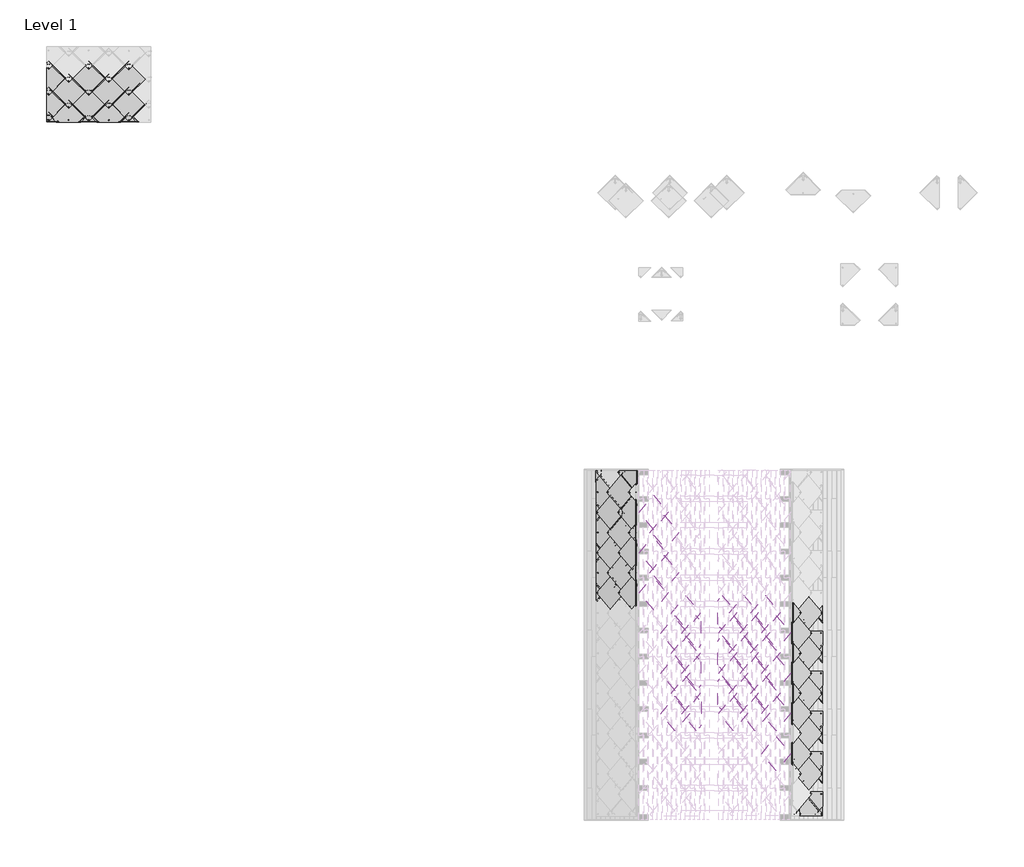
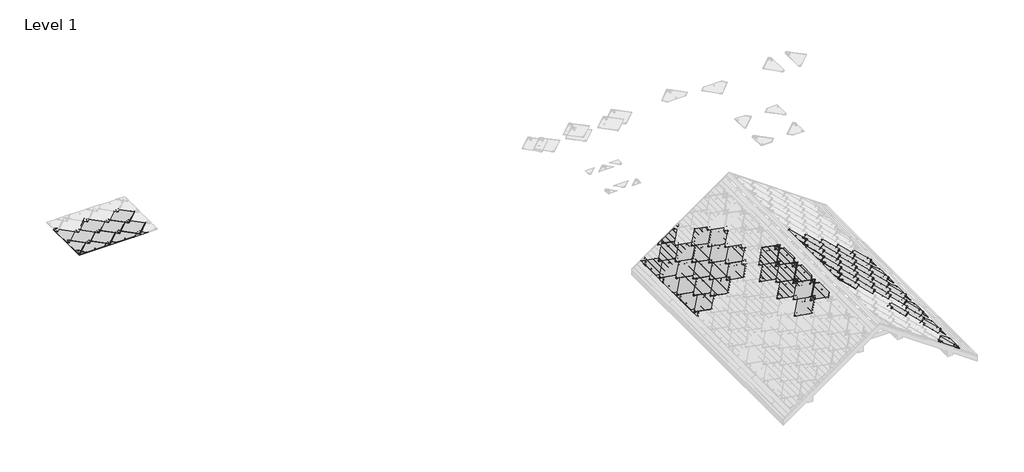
# One storey, part 5 of 6: 89 proxies.
"""IFC4 building model written with IfcOpenShell, lengths in millimetres."""

from ifc_helpers import new_model, si_unit, origin, place, context, project, spatial, transform, mapped, element, save
from components import generic_models_2e27a9fd, corner_bottom_big_right_black_b907a22d, corner_bottom_small_left_black_798ab3c3, roofing_panels_sunstyle_tile_non_pv_shingle_non_pv_shingle_be952c39, roofing_panels_sunstyle_tile_shingle_bottom_shingle_bottom_4eb983e8, roofing_panels_sunstyle_tile_shingle_bottom_small_shingle_761d3557, roofing_panels_sunstyle_tile_shingle_left_shingle_left_black_59aad734, roofing_panels_sunstyle_tile_shingle_top_shingle_top_black_4c6098d4

model = new_model("IFC4")

# Units and contexts
model_context = context("Model", 3, world=origin())
ifc_project = project(units=[si_unit("LENGTHUNIT", "METRE", prefix="MILLI")], contexts=[model_context])

# Site, building, storey
site = spatial("IfcSite", under=ifc_project)
building = spatial("IfcBuilding", under=site)
storey = spatial("IfcBuildingStorey", under=building, Name="Level 1", Elevation=0.0)

# Proxies
placement = place(None, origin())
generic_models_shape = generic_models_2e27a9fd(model_context)
element("IfcBuildingElementProxy", 1, Name="Roofing_Solar-Panels_SunStyle_Shingle-Sunstyle : Shingle Sunstyle - Black", ObjectType="Roofing_Solar-Panels_SunStyle_Shingle-Sunstyle : Shingle Sunstyle - Black", at=placement, inside=storey, context=model_context, shape_type="MappedRepresentation", body=[
    mapped(generic_models_shape, transform((-1535.0039048, 3259.0149425, 870.4489309), x_axis=(0.0, -1.0, 0.0), y_axis=(0.8191520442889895, 0.0, 0.5735764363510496), z_axis=(-0.5735764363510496, 0.0, 0.8191520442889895))),
])
element("IfcBuildingElementProxy", 2, Name="Roofing_Solar-Panels_SunStyle_Shingle-Sunstyle : Shingle Sunstyle - Black", ObjectType="Roofing_Solar-Panels_SunStyle_Shingle-Sunstyle : Shingle Sunstyle - Black", at=placement, inside=storey, context=model_context, shape_type="MappedRepresentation", body=[
    mapped(generic_models_shape, transform((-1207.5155574, 2641.6040907, 1099.7587404), x_axis=(0.0, -1.0, 0.0), y_axis=(0.8191520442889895, 0.0, 0.5735764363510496), z_axis=(-0.5735764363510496, 0.0, 0.8191520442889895))),
])
element("IfcBuildingElementProxy", 3, Name="Roofing_Solar-Panels_SunStyle_Shingle-Sunstyle : Shingle Sunstyle - Black", ObjectType="Roofing_Solar-Panels_SunStyle_Shingle-Sunstyle : Shingle Sunstyle - Black", at=placement, inside=storey, context=model_context, shape_type="MappedRepresentation", body=[
    mapped(generic_models_shape, transform((-1854.8929232, 2641.5988232, 646.4602288), x_axis=(0.0, -1.0, 0.0), y_axis=(0.8191520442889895, 0.0, 0.5735764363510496), z_axis=(-0.5735764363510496, 0.0, 0.8191520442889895))),
])
element("IfcBuildingElementProxy", 4, Name="Roofing_Solar-Panels_SunStyle_Shingle-Sunstyle : Shingle Sunstyle - Black", ObjectType="Roofing_Solar-Panels_SunStyle_Shingle-Sunstyle : Shingle Sunstyle - Black", at=placement, inside=storey, context=model_context, shape_type="MappedRepresentation", body=[
    mapped(generic_models_shape, transform((-558.6661822, 2641.1746231, 1554.0879641), x_axis=(0.0, -1.0, 0.0), y_axis=(0.8191520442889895, 0.0, 0.5735764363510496), z_axis=(-0.5735764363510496, 0.0, 0.8191520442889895))),
])
element("IfcBuildingElementProxy", 5, Name="Roofing_Solar-Panels_SunStyle_Shingle-Sunstyle : Shingle Sunstyle - Black", ObjectType="Roofing_Solar-Panels_SunStyle_Shingle-Sunstyle : Shingle Sunstyle - Black", at=placement, inside=storey, context=model_context, shape_type="MappedRepresentation", body=[
    mapped(generic_models_shape, transform((-1530.4009417, 2029.6013438, 873.6719604), x_axis=(0.0, -1.0, 0.0), y_axis=(0.8191520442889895, 0.0, 0.5735764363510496), z_axis=(-0.5735764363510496, 0.0, 0.8191520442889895))),
])
element("IfcBuildingElementProxy", 6, Name="Roofing_Solar-Panels_SunStyle_Shingle-Sunstyle : Shingle Sunstyle - Black", ObjectType="Roofing_Solar-Panels_SunStyle_Shingle-Sunstyle : Shingle Sunstyle - Black", at=placement, inside=storey, context=model_context, shape_type="MappedRepresentation", body=[
    mapped(generic_models_shape, transform((-1529.6029835, 806.6603268, 874.2306967), x_axis=(0.0, -1.0, 0.0), y_axis=(0.8191520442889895, 0.0, 0.5735764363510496), z_axis=(-0.5735764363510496, 0.0, 0.8191520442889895))),
])
element("IfcBuildingElementProxy", 7, Name="Roofing_Solar-Panels_SunStyle_Shingle-Sunstyle : Shingle Sunstyle - Black", ObjectType="Roofing_Solar-Panels_SunStyle_Shingle-Sunstyle : Shingle Sunstyle - Black", at=placement, inside=storey, context=model_context, shape_type="MappedRepresentation", body=[
    mapped(generic_models_shape, transform((-1199.2540571, 1418.4367735, 1105.5435052), x_axis=(0.0, -1.0, 0.0), y_axis=(0.8191520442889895, 0.0, 0.5735764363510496), z_axis=(-0.5735764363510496, 0.0, 0.8191520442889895))),
])
element("IfcBuildingElementProxy", 8, Name="Roofing_Solar-Panels_SunStyle_Shingle-Sunstyle : Shingle Sunstyle - Black", ObjectType="Roofing_Solar-Panels_SunStyle_Shingle-Sunstyle : Shingle Sunstyle - Black", at=placement, inside=storey, context=model_context, shape_type="MappedRepresentation", body=[
    mapped(generic_models_shape, transform((-1847.9603552, 1418.4685988, 651.3144652), x_axis=(0.0, -1.0, 0.0), y_axis=(0.8191520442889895, 0.0, 0.5735764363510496), z_axis=(-0.5735764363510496, 0.0, 0.8191520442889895))),
])
element("IfcBuildingElementProxy", 9, Name="Roofing_Solar-Panels_SunStyle_Shingle-Sunstyle : Shingle Sunstyle - Black", ObjectType="Roofing_Solar-Panels_SunStyle_Shingle-Sunstyle : Shingle Sunstyle - Black", at=placement, inside=storey, context=model_context, shape_type="MappedRepresentation", body=[
    mapped(generic_models_shape, transform((-1197.9998309, 195.6090165, 1106.4217239), x_axis=(0.0, -1.0, 0.0), y_axis=(0.8191520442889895, 0.0, 0.5735764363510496), z_axis=(-0.5735764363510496, 0.0, 0.8191520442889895))),
])
element("IfcBuildingElementProxy", 10, Name="Roofing_Solar-Panels_SunStyle_Shingle-Sunstyle : Shingle Sunstyle - Black", ObjectType="Roofing_Solar-Panels_SunStyle_Shingle-Sunstyle : Shingle Sunstyle - Black", at=placement, inside=storey, context=model_context, shape_type="MappedRepresentation", body=[
    mapped(generic_models_shape, transform((-1845.7273017, 195.560994, 652.8780661), x_axis=(0.0, -1.0, 0.0), y_axis=(0.8191520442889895, 0.0, 0.5735764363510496), z_axis=(-0.5735764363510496, 0.0, 0.8191520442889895))),
])
element("IfcBuildingElementProxy", 11, Name="Roofing_Solar-Panels_SunStyle_Shingle-Sunstyle : Shingle Sunstyle - Black", ObjectType="Roofing_Solar-Panels_SunStyle_Shingle-Sunstyle : Shingle Sunstyle - Black", at=placement, inside=storey, context=model_context, shape_type="MappedRepresentation", body=[
    mapped(generic_models_shape, transform((-550.5067889, 1418.8732971, 1559.8012328), x_axis=(0.0, -1.0, 0.0), y_axis=(0.8191520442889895, 0.0, 0.5735764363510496), z_axis=(-0.5735764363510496, 0.0, 0.8191520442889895))),
])
element("IfcBuildingElementProxy", 12, Name="Roofing_Solar-Panels_SunStyle_Shingle-Sunstyle : Shingle Sunstyle - Black", ObjectType="Roofing_Solar-Panels_SunStyle_Shingle-Sunstyle : Shingle Sunstyle - Black", at=placement, inside=storey, context=model_context, shape_type="MappedRepresentation", body=[
    mapped(generic_models_shape, transform((-236.1174212, 2029.4693943, 1779.939038), x_axis=(0.0, -1.0, 0.0), y_axis=(0.8191520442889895, 0.0, 0.5735764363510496), z_axis=(-0.5735764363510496, 0.0, 0.8191520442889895))),
])
element("IfcBuildingElementProxy", 13, Name="Roofing_Solar-Panels_SunStyle_Shingle-Sunstyle : Shingle Sunstyle - Black", ObjectType="Roofing_Solar-Panels_SunStyle_Shingle-Sunstyle : Shingle Sunstyle - Black", at=placement, inside=storey, context=model_context, shape_type="MappedRepresentation", body=[
    mapped(generic_models_shape, transform((-233.2913651, 806.0015325, 1781.9178637), x_axis=(0.0, -1.0, 0.0), y_axis=(0.8191520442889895, 0.0, 0.5735764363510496), z_axis=(-0.5735764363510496, 0.0, 0.8191520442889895))),
])
element("IfcBuildingElementProxy", 14, Name="Roofing_Solar-Panels_SunStyle_Shingle-Sunstyle : Shingle Sunstyle - Black", ObjectType="Roofing_Solar-Panels_SunStyle_Shingle-Sunstyle : Shingle Sunstyle - Black", at=placement, inside=storey, context=model_context, shape_type="MappedRepresentation", body=[
    mapped(generic_models_shape, transform((-550.4746617, 195.8970297, 1559.8237285), x_axis=(0.0, -1.0, 0.0), y_axis=(0.8191520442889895, 0.0, 0.5735764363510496), z_axis=(-0.5735764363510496, 0.0, 0.8191520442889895))),
])
element("IfcBuildingElementProxy", 15, Name="Roofing_Solar-Panels_SunStyle_Shingle-Sunstyle : Shingle Sunstyle - Black", ObjectType="Roofing_Solar-Panels_SunStyle_Shingle-Sunstyle : Shingle Sunstyle - Black", at=placement, inside=storey, context=model_context, shape_type="MappedRepresentation", body=[
    mapped(generic_models_shape, transform((97.0115308, -1029.6649676, 2013.1984414), x_axis=(0.0, -1.0, 0.0), y_axis=(0.8191520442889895, 0.0, 0.5735764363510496), z_axis=(-0.5735764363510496, 0.0, 0.8191520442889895))),
])
element("IfcBuildingElementProxy", 16, Name="Roofing_Solar-Panels_SunStyle_Shingle-Sunstyle : Shingle Sunstyle - Black", ObjectType="Roofing_Solar-Panels_SunStyle_Shingle-Sunstyle : Shingle Sunstyle - Black", at=placement, inside=storey, context=model_context, shape_type="MappedRepresentation", body=[
    mapped(generic_models_shape, transform((418.2793717, -1641.9778988, 2238.1526053), x_axis=(0.0, -1.0, 0.0), y_axis=(0.8191520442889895, 0.0, 0.5735764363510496), z_axis=(-0.5735764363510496, 0.0, 0.8191520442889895))),
])
element("IfcBuildingElementProxy", 17, Name="Roofing_Solar-Panels_SunStyle_Shingle-Sunstyle : Shingle Sunstyle - Black", ObjectType="Roofing_Solar-Panels_SunStyle_Shingle-Sunstyle : Shingle Sunstyle - Black", at=placement, inside=storey, context=model_context, shape_type="MappedRepresentation", body=[
    mapped(generic_models_shape, transform((97.0115308, -2251.4167665, 2013.1984414), x_axis=(0.0, -1.0, 0.0), y_axis=(0.8191520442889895, 0.0, 0.5735764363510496), z_axis=(-0.5735764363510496, 0.0, 0.8191520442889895))),
])
element("IfcBuildingElementProxy", 18, Name="Roofing_Solar-Panels_SunStyle_Shingle-Sunstyle : Shingle Sunstyle - Black", ObjectType="Roofing_Solar-Panels_SunStyle_Shingle-Sunstyle : Shingle Sunstyle - Black", at=placement, inside=storey, context=model_context, shape_type="MappedRepresentation", body=[
    mapped(generic_models_shape, transform((97.0115308, -3477.1550312, 2013.1984414), x_axis=(0.0, -1.0, 0.0), y_axis=(0.8191520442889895, 0.0, 0.5735764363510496), z_axis=(-0.5735764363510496, 0.0, 0.8191520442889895))),
])
element("IfcBuildingElementProxy", 19, Name="Roofing_Solar-Panels_SunStyle_Shingle-Sunstyle : Shingle Sunstyle - Black", ObjectType="Roofing_Solar-Panels_SunStyle_Shingle-Sunstyle : Shingle Sunstyle - Black", at=placement, inside=storey, context=model_context, shape_type="MappedRepresentation", body=[
    mapped(generic_models_shape, transform((417.0270674, -418.4426617, 2237.2757324), x_axis=(0.0, -1.0, 0.0), y_axis=(0.8191520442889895, 0.0, 0.5735764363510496), z_axis=(-0.5735764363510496, 0.0, 0.8191520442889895))),
])
element("IfcBuildingElementProxy", 20, Name="Roofing_Solar-Panels_SunStyle_Shingle-Sunstyle : Shingle Sunstyle - Black", ObjectType="Roofing_Solar-Panels_SunStyle_Shingle-Sunstyle : Shingle Sunstyle - Black", at=placement, inside=storey, context=model_context, shape_type="MappedRepresentation", body=[
    mapped(generic_models_shape, transform((419.2846687, -2865.9327253, 2238.8565219), x_axis=(0.0, -1.0, 0.0), y_axis=(0.8191520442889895, 0.0, 0.5735764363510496), z_axis=(-0.5735764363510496, 0.0, 0.8191520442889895))),
])
element("IfcBuildingElementProxy", 21, Name="Roofing_Solar-Panels_SunStyle_Shingle-Sunstyle : Shingle Sunstyle - Black", ObjectType="Roofing_Solar-Panels_SunStyle_Shingle-Sunstyle : Shingle Sunstyle - Black", at=placement, inside=storey, context=model_context, shape_type="MappedRepresentation", body=[
    mapped(generic_models_shape, transform((-883.5258315, 2029.6103825, 1326.6187888), x_axis=(0.0, -1.0, 0.0), y_axis=(0.8191520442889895, 0.0, 0.5735764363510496), z_axis=(-0.5735764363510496, 0.0, 0.8191520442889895))),
])
element("IfcBuildingElementProxy", 22, Name="Roofing_Solar-Panels_SunStyle_Shingle-Sunstyle : Shingle Sunstyle - Black", ObjectType="Roofing_Solar-Panels_SunStyle_Shingle-Sunstyle : Shingle Sunstyle - Black", at=placement, inside=storey, context=model_context, shape_type="MappedRepresentation", body=[
    mapped(generic_models_shape, transform((-880.6655471, 806.6606159, 1328.6215815), x_axis=(0.0, -1.0, 0.0), y_axis=(0.8191520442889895, 0.0, 0.5735764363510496), z_axis=(-0.5735764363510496, 0.0, 0.8191520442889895))),
])
element("IfcBuildingElementProxy", 23, Name="Roofing_Solar-Panels_SunStyle_Shingle-Sunstyle : Shingle Sunstyle - Black", ObjectType="Roofing_Solar-Panels_SunStyle_Shingle-Sunstyle : Shingle Sunstyle - Black", at=placement, inside=storey, context=model_context, shape_type="MappedRepresentation", body=[
    mapped(generic_models_shape, transform((3456.4537913, -412.3049924, 1295.5334931), x_axis=(0.0, 1.0, 0.0), y_axis=(-0.8191520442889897, 0.0, 0.5735764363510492), z_axis=(0.5735764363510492, 0.0, 0.8191520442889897))),
])
element("IfcBuildingElementProxy", 24, Name="Roofing_Solar-Panels_SunStyle_Shingle-Sunstyle : Shingle Sunstyle - Black", ObjectType="Roofing_Solar-Panels_SunStyle_Shingle-Sunstyle : Shingle Sunstyle - Black", at=placement, inside=storey, context=model_context, shape_type="MappedRepresentation", body=[
    mapped(generic_models_shape, transform((4100.2290331, -414.2397947, 844.7572159), x_axis=(0.0, 1.0, 0.0), y_axis=(-0.8191520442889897, 0.0, 0.5735764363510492), z_axis=(0.5735764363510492, 0.0, 0.8191520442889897))),
])
element("IfcBuildingElementProxy", 25, Name="Roofing_Solar-Panels_SunStyle_Shingle-Sunstyle : Shingle Sunstyle - Black", ObjectType="Roofing_Solar-Panels_SunStyle_Shingle-Sunstyle : Shingle Sunstyle - Black", at=placement, inside=storey, context=model_context, shape_type="MappedRepresentation", body=[
    mapped(generic_models_shape, transform((2812.5194528, -409.108624, 1746.421171), x_axis=(0.0, 1.0, 0.0), y_axis=(-0.8191520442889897, 0.0, 0.5735764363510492), z_axis=(0.5735764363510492, 0.0, 0.8191520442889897))),
])
element("IfcBuildingElementProxy", 26, Name="Roofing_Solar-Panels_SunStyle_Shingle-Sunstyle : Shingle Sunstyle - Black", ObjectType="Roofing_Solar-Panels_SunStyle_Shingle-Sunstyle : Shingle Sunstyle - Black", at=placement, inside=storey, context=model_context, shape_type="MappedRepresentation", body=[
    mapped(generic_models_shape, transform((2152.6525765, -410.5955467, 2208.464932), x_axis=(0.0, 1.0, 0.0), y_axis=(-0.8191520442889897, 0.0, 0.5735764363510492), z_axis=(0.5735764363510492, 0.0, 0.8191520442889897))),
])
element("IfcBuildingElementProxy", 27, Name="Roofing_Solar-Panels_SunStyle_Shingle-Sunstyle : Shingle Sunstyle - Black", ObjectType="Roofing_Solar-Panels_SunStyle_Shingle-Sunstyle : Shingle Sunstyle - Black", at=placement, inside=storey, context=model_context, shape_type="MappedRepresentation", body=[
    mapped(generic_models_shape, transform((3778.0193653, -1026.170702, 1070.3708542), x_axis=(0.0, 1.0, 0.0), y_axis=(-0.8191520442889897, 0.0, 0.5735764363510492), z_axis=(0.5735764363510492, 0.0, 0.8191520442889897))),
])
element("IfcBuildingElementProxy", 28, Name="Roofing_Solar-Panels_SunStyle_Shingle-Sunstyle : Shingle Sunstyle - Black", ObjectType="Roofing_Solar-Panels_SunStyle_Shingle-Sunstyle : Shingle Sunstyle - Black", at=placement, inside=storey, context=model_context, shape_type="MappedRepresentation", body=[
    mapped(generic_models_shape, transform((3134.2669178, -1024.282176, 1521.1311707), x_axis=(0.0, 1.0, 0.0), y_axis=(-0.8191520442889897, 0.0, 0.5735764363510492), z_axis=(0.5735764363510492, 0.0, 0.8191520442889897))),
])
element("IfcBuildingElementProxy", 29, Name="Roofing_Solar-Panels_SunStyle_Shingle-Sunstyle : Shingle Sunstyle - Black", ObjectType="Roofing_Solar-Panels_SunStyle_Shingle-Sunstyle : Shingle Sunstyle - Black", at=placement, inside=storey, context=model_context, shape_type="MappedRepresentation", body=[
    mapped(generic_models_shape, transform((2490.4193004, -1021.3295974, 1971.9581258), x_axis=(0.0, 1.0, 0.0), y_axis=(-0.8191520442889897, 0.0, 0.5735764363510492), z_axis=(0.5735764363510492, 0.0, 0.8191520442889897))),
])
element("IfcBuildingElementProxy", 30, Name="Roofing_Solar-Panels_SunStyle_Shingle-Sunstyle : Shingle Sunstyle - Black", ObjectType="Roofing_Solar-Panels_SunStyle_Shingle-Sunstyle : Shingle Sunstyle - Black", at=placement, inside=storey, context=model_context, shape_type="MappedRepresentation", body=[
    mapped(generic_models_shape, transform((1831.7362128, -1020.7907284, 2433.1729891), x_axis=(0.0, 1.0, 0.0), y_axis=(-0.8191520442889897, 0.0, 0.5735764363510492), z_axis=(0.5735764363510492, 0.0, 0.8191520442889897))),
])
element("IfcBuildingElementProxy", 31, Name="Roofing_Solar-Panels_SunStyle_Shingle-Sunstyle : Shingle Sunstyle - Black", ObjectType="Roofing_Solar-Panels_SunStyle_Shingle-Sunstyle : Shingle Sunstyle - Black", at=placement, inside=storey, context=model_context, shape_type="MappedRepresentation", body=[
    mapped(generic_models_shape, transform((3456.4537913, -1636.053072, 1295.5334931), x_axis=(0.0, 1.0, 0.0), y_axis=(-0.8191520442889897, 0.0, 0.5735764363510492), z_axis=(0.5735764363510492, 0.0, 0.8191520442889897))),
])
element("IfcBuildingElementProxy", 32, Name="Roofing_Solar-Panels_SunStyle_Shingle-Sunstyle : Shingle Sunstyle - Black", ObjectType="Roofing_Solar-Panels_SunStyle_Shingle-Sunstyle : Shingle Sunstyle - Black", at=placement, inside=storey, context=model_context, shape_type="MappedRepresentation", body=[
    mapped(generic_models_shape, transform((4100.2290331, -1637.9878743, 844.7572159), x_axis=(0.0, 1.0, 0.0), y_axis=(-0.8191520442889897, 0.0, 0.5735764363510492), z_axis=(0.5735764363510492, 0.0, 0.8191520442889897))),
])
element("IfcBuildingElementProxy", 33, Name="Roofing_Solar-Panels_SunStyle_Shingle-Sunstyle : Shingle Sunstyle - Black", ObjectType="Roofing_Solar-Panels_SunStyle_Shingle-Sunstyle : Shingle Sunstyle - Black", at=placement, inside=storey, context=model_context, shape_type="MappedRepresentation", body=[
    mapped(generic_models_shape, transform((2812.5194528, -1632.8567036, 1746.421171), x_axis=(0.0, 1.0, 0.0), y_axis=(-0.8191520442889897, 0.0, 0.5735764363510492), z_axis=(0.5735764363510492, 0.0, 0.8191520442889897))),
])
element("IfcBuildingElementProxy", 34, Name="Roofing_Solar-Panels_SunStyle_Shingle-Sunstyle : Shingle Sunstyle - Black", ObjectType="Roofing_Solar-Panels_SunStyle_Shingle-Sunstyle : Shingle Sunstyle - Black", at=placement, inside=storey, context=model_context, shape_type="MappedRepresentation", body=[
    mapped(generic_models_shape, transform((2152.6525765, -1634.3436263, 2208.464932), x_axis=(0.0, 1.0, 0.0), y_axis=(-0.8191520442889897, 0.0, 0.5735764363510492), z_axis=(0.5735764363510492, 0.0, 0.8191520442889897))),
])
element("IfcBuildingElementProxy", 35, Name="Roofing_Solar-Panels_SunStyle_Shingle-Sunstyle : Shingle Sunstyle - Black", ObjectType="Roofing_Solar-Panels_SunStyle_Shingle-Sunstyle : Shingle Sunstyle - Black", at=placement, inside=storey, context=model_context, shape_type="MappedRepresentation", body=[
    mapped(generic_models_shape, transform((3778.0193653, -2249.8248307, 1070.3708542), x_axis=(0.0, 1.0, 0.0), y_axis=(-0.8191520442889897, 0.0, 0.5735764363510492), z_axis=(0.5735764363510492, 0.0, 0.8191520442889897))),
])
element("IfcBuildingElementProxy", 36, Name="Roofing_Solar-Panels_SunStyle_Shingle-Sunstyle : Shingle Sunstyle - Black", ObjectType="Roofing_Solar-Panels_SunStyle_Shingle-Sunstyle : Shingle Sunstyle - Black", at=placement, inside=storey, context=model_context, shape_type="MappedRepresentation", body=[
    mapped(generic_models_shape, transform((3134.2669178, -2247.9363047, 1521.1311707), x_axis=(0.0, 1.0, 0.0), y_axis=(-0.8191520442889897, 0.0, 0.5735764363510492), z_axis=(0.5735764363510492, 0.0, 0.8191520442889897))),
])
element("IfcBuildingElementProxy", 37, Name="Roofing_Solar-Panels_SunStyle_Shingle-Sunstyle : Shingle Sunstyle - Black", ObjectType="Roofing_Solar-Panels_SunStyle_Shingle-Sunstyle : Shingle Sunstyle - Black", at=placement, inside=storey, context=model_context, shape_type="MappedRepresentation", body=[
    mapped(generic_models_shape, transform((2490.4193004, -2244.9837261, 1971.9581258), x_axis=(0.0, 1.0, 0.0), y_axis=(-0.8191520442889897, 0.0, 0.5735764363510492), z_axis=(0.5735764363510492, 0.0, 0.8191520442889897))),
])
element("IfcBuildingElementProxy", 38, Name="Roofing_Solar-Panels_SunStyle_Shingle-Sunstyle : Shingle Sunstyle - Black", ObjectType="Roofing_Solar-Panels_SunStyle_Shingle-Sunstyle : Shingle Sunstyle - Black", at=placement, inside=storey, context=model_context, shape_type="MappedRepresentation", body=[
    mapped(generic_models_shape, transform((1831.7362128, -2244.4448571, 2433.1729891), x_axis=(0.0, 1.0, 0.0), y_axis=(-0.8191520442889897, 0.0, 0.5735764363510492), z_axis=(0.5735764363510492, 0.0, 0.8191520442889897))),
])
element("IfcBuildingElementProxy", 39, Name="Roofing_Solar-Panels_SunStyle_Shingle-Sunstyle : Shingle Sunstyle - Black", ObjectType="Roofing_Solar-Panels_SunStyle_Shingle-Sunstyle : Shingle Sunstyle - Black", at=placement, inside=storey, context=model_context, shape_type="MappedRepresentation", body=[
    mapped(generic_models_shape, transform((3456.4537913, -2859.7072007, 1295.5334931), x_axis=(0.0, 1.0, 0.0), y_axis=(-0.8191520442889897, 0.0, 0.5735764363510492), z_axis=(0.5735764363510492, 0.0, 0.8191520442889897))),
])
element("IfcBuildingElementProxy", 40, Name="Roofing_Solar-Panels_SunStyle_Shingle-Sunstyle : Shingle Sunstyle - Black", ObjectType="Roofing_Solar-Panels_SunStyle_Shingle-Sunstyle : Shingle Sunstyle - Black", at=placement, inside=storey, context=model_context, shape_type="MappedRepresentation", body=[
    mapped(generic_models_shape, transform((4100.2290331, -2861.6420029, 844.7572159), x_axis=(0.0, 1.0, 0.0), y_axis=(-0.8191520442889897, 0.0, 0.5735764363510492), z_axis=(0.5735764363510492, 0.0, 0.8191520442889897))),
])
element("IfcBuildingElementProxy", 41, Name="Roofing_Solar-Panels_SunStyle_Shingle-Sunstyle : Shingle Sunstyle - Black", ObjectType="Roofing_Solar-Panels_SunStyle_Shingle-Sunstyle : Shingle Sunstyle - Black", at=placement, inside=storey, context=model_context, shape_type="MappedRepresentation", body=[
    mapped(generic_models_shape, transform((2812.5194528, -2856.5108323, 1746.421171), x_axis=(0.0, 1.0, 0.0), y_axis=(-0.8191520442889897, 0.0, 0.5735764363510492), z_axis=(0.5735764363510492, 0.0, 0.8191520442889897))),
])
element("IfcBuildingElementProxy", 42, Name="Roofing_Solar-Panels_SunStyle_Shingle-Sunstyle : Shingle Sunstyle - Black", ObjectType="Roofing_Solar-Panels_SunStyle_Shingle-Sunstyle : Shingle Sunstyle - Black", at=placement, inside=storey, context=model_context, shape_type="MappedRepresentation", body=[
    mapped(generic_models_shape, transform((2152.6525765, -2857.997755, 2208.464932), x_axis=(0.0, 1.0, 0.0), y_axis=(-0.8191520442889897, 0.0, 0.5735764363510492), z_axis=(0.5735764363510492, 0.0, 0.8191520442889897))),
])
element("IfcBuildingElementProxy", 43, Name="Roofing_Solar-Panels_SunStyle_Shingle-Sunstyle : Shingle Sunstyle - Black", ObjectType="Roofing_Solar-Panels_SunStyle_Shingle-Sunstyle : Shingle Sunstyle - Black", at=placement, inside=storey, context=model_context, shape_type="MappedRepresentation", body=[
    mapped(generic_models_shape, transform((3778.0193653, -3473.4706528, 1070.3708542), x_axis=(0.0, 1.0, 0.0), y_axis=(-0.8191520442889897, 0.0, 0.5735764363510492), z_axis=(0.5735764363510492, 0.0, 0.8191520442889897))),
])
element("IfcBuildingElementProxy", 44, Name="Roofing_Solar-Panels_SunStyle_Shingle-Sunstyle : Shingle Sunstyle - Black", ObjectType="Roofing_Solar-Panels_SunStyle_Shingle-Sunstyle : Shingle Sunstyle - Black", at=placement, inside=storey, context=model_context, shape_type="MappedRepresentation", body=[
    mapped(generic_models_shape, transform((3134.2669178, -3471.5821268, 1521.1311707), x_axis=(0.0, 1.0, 0.0), y_axis=(-0.8191520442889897, 0.0, 0.5735764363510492), z_axis=(0.5735764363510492, 0.0, 0.8191520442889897))),
])
element("IfcBuildingElementProxy", 45, Name="Roofing_Solar-Panels_SunStyle_Shingle-Sunstyle : Shingle Sunstyle - Black", ObjectType="Roofing_Solar-Panels_SunStyle_Shingle-Sunstyle : Shingle Sunstyle - Black", at=placement, inside=storey, context=model_context, shape_type="MappedRepresentation", body=[
    mapped(generic_models_shape, transform((2490.4193004, -3468.6295482, 1971.9581258), x_axis=(0.0, 1.0, 0.0), y_axis=(-0.8191520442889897, 0.0, 0.5735764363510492), z_axis=(0.5735764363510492, 0.0, 0.8191520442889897))),
])
element("IfcBuildingElementProxy", 46, Name="Roofing_Solar-Panels_SunStyle_Shingle-Sunstyle : Shingle Sunstyle - Black", ObjectType="Roofing_Solar-Panels_SunStyle_Shingle-Sunstyle : Shingle Sunstyle - Black", at=placement, inside=storey, context=model_context, shape_type="MappedRepresentation", body=[
    mapped(generic_models_shape, transform((1831.7362128, -3468.0906792, 2433.1729891), x_axis=(0.0, 1.0, 0.0), y_axis=(-0.8191520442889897, 0.0, 0.5735764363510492), z_axis=(0.5735764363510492, 0.0, 0.8191520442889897))),
])
element("IfcBuildingElementProxy", 47, Name="Roofing_Solar-Panels_SunStyle_Shingle-Sunstyle : Shingle Sunstyle - Black", ObjectType="Roofing_Solar-Panels_SunStyle_Shingle-Sunstyle : Shingle Sunstyle - Black", at=placement, inside=storey, context=model_context, shape_type="MappedRepresentation", body=[
    mapped(generic_models_shape, transform((4100.2290331, -4085.287825, 844.7572159), x_axis=(0.0, 1.0, 0.0), y_axis=(-0.8191520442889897, 0.0, 0.5735764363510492), z_axis=(0.5735764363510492, 0.0, 0.8191520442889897))),
])
element("IfcBuildingElementProxy", 48, Name="Roofing_Solar-Panels_SunStyle_Shingle-Sunstyle : Shingle Sunstyle - Black", ObjectType="Roofing_Solar-Panels_SunStyle_Shingle-Sunstyle : Shingle Sunstyle - Black", at=placement, inside=storey, context=model_context, shape_type="MappedRepresentation", body=[
    mapped(generic_models_shape, transform((3778.0193653, -4697.1340052, 1070.3708542), x_axis=(0.0, 1.0, 0.0), y_axis=(-0.8191520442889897, 0.0, 0.5735764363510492), z_axis=(0.5735764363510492, 0.0, 0.8191520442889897))),
])
element("IfcBuildingElementProxy", 49, Name="Roofing_Solar-Panels_SunStyle_Shingle-Sunstyle : Shingle Sunstyle - Black", ObjectType="Roofing_Solar-Panels_SunStyle_Shingle-Sunstyle : Shingle Sunstyle - Black", at=placement, inside=storey, context=model_context, shape_type="MappedRepresentation", body=[
    mapped(generic_models_shape, transform((3134.2669178, -4695.2454793, 1521.1311707), x_axis=(0.0, 1.0, 0.0), y_axis=(-0.8191520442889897, 0.0, 0.5735764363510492), z_axis=(0.5735764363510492, 0.0, 0.8191520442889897))),
])
element("IfcBuildingElementProxy", 50, Name="Roofing_Solar-Panels_SunStyle_Shingle-Sunstyle : Shingle Sunstyle - Black", ObjectType="Roofing_Solar-Panels_SunStyle_Shingle-Sunstyle : Shingle Sunstyle - Black", at=placement, inside=storey, context=model_context, shape_type="MappedRepresentation", body=[
    mapped(generic_models_shape, transform((4100.2290331, -5308.9511775, 844.7572159), x_axis=(0.0, 1.0, 0.0), y_axis=(-0.8191520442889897, 0.0, 0.5735764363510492), z_axis=(0.5735764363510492, 0.0, 0.8191520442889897))),
])
corner_bottom_big_right_black_shape = corner_bottom_big_right_black_b907a22d(model_context)
element("IfcBuildingElementProxy", 51, Name="Roofing_Panels_SunStyle_Tile_Corner-Bottom-Big-Right : Corner Bottom Big Right - Black", ObjectType="Roofing_Panels_SunStyle_Tile_Corner-Bottom-Big-Right : Corner Bottom Big Right - Black", at=placement, inside=storey, context=model_context, shape_type="MappedRepresentation", body=[
    mapped(corner_bottom_big_right_black_shape, transform((4504.5969735, -5920.6834278, 561.6157358), x_axis=(0.0, 1.0, 0.0), y_axis=(-0.8191520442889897, 0.0, 0.5735764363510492), z_axis=(0.5735764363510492, 0.0, 0.8191520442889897))),
])
element("IfcBuildingElementProxy", 52, Name="Roofing_Panels_SunStyle_Tile_Corner-Bottom-Big-Right : Corner Bottom Big Right - Black", ObjectType="Roofing_Panels_SunStyle_Tile_Corner-Bottom-Big-Right : Corner Bottom Big Right - Black", at=placement, inside=storey, context=model_context, shape_type="MappedRepresentation", body=[
    mapped(corner_bottom_big_right_black_shape, transform((4500.2731694, -1026.2343468, 564.643296), x_axis=(0.0, 1.0, 0.0), y_axis=(-0.8191520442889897, 0.0, 0.5735764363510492), z_axis=(0.5735764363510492, 0.0, 0.8191520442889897))),
])
element("IfcBuildingElementProxy", 53, Name="Roofing_Panels_SunStyle_Tile_Corner-Bottom-Big-Right : Corner Bottom Big Right - Black", ObjectType="Roofing_Panels_SunStyle_Tile_Corner-Bottom-Big-Right : Corner Bottom Big Right - Black", at=placement, inside=storey, context=model_context, shape_type="MappedRepresentation", body=[
    mapped(corner_bottom_big_right_black_shape, transform((4500.2731694, -2249.8884755, 564.643296), x_axis=(0.0, 1.0, 0.0), y_axis=(-0.8191520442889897, 0.0, 0.5735764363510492), z_axis=(0.5735764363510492, 0.0, 0.8191520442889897))),
])
element("IfcBuildingElementProxy", 54, Name="Roofing_Panels_SunStyle_Tile_Corner-Bottom-Big-Right : Corner Bottom Big Right - Black", ObjectType="Roofing_Panels_SunStyle_Tile_Corner-Bottom-Big-Right : Corner Bottom Big Right - Black", at=placement, inside=storey, context=model_context, shape_type="MappedRepresentation", body=[
    mapped(corner_bottom_big_right_black_shape, transform((4500.2731694, -3473.5342976, 564.643296), x_axis=(0.0, 1.0, 0.0), y_axis=(-0.8191520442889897, 0.0, 0.5735764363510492), z_axis=(0.5735764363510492, 0.0, 0.8191520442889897))),
])
element("IfcBuildingElementProxy", 55, Name="Roofing_Panels_SunStyle_Tile_Corner-Bottom-Big-Right : Corner Bottom Big Right - Black", ObjectType="Roofing_Panels_SunStyle_Tile_Corner-Bottom-Big-Right : Corner Bottom Big Right - Black", at=placement, inside=storey, context=model_context, shape_type="MappedRepresentation", body=[
    mapped(corner_bottom_big_right_black_shape, transform((4500.2731694, -4697.1976501, 564.643296), x_axis=(0.0, 1.0, 0.0), y_axis=(-0.8191520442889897, 0.0, 0.5735764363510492), z_axis=(0.5735764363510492, 0.0, 0.8191520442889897))),
])
corner_bottom_small_left_black_shape = corner_bottom_small_left_black_798ab3c3(model_context)
element("IfcBuildingElementProxy", 56, Name="Roofing_Panels_SunStyle_Tile_Corner-Bottom-Small-Left : Corner Bottom Small Left - Black", ObjectType="Roofing_Panels_SunStyle_Tile_Corner-Bottom-Small-Left : Corner Bottom Small Left - Black", at=placement, inside=storey, context=model_context, shape_type="MappedRepresentation", body=[
    mapped(corner_bottom_small_left_black_shape, transform((-2578.7189278, 3870.3505898, 139.631804), x_axis=(0.0, -1.0, 0.0), y_axis=(0.8191520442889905, 0.0, 0.5735764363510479), z_axis=(-0.5735764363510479, 0.0, 0.8191520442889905))),
])
element("IfcBuildingElementProxy", 57, Name="Roofing_Panels_SunStyle_Tile_Corner-Bottom-Small-Left : Corner Bottom Small Left - Black", ObjectType="Roofing_Panels_SunStyle_Tile_Corner-Bottom-Small-Left : Corner Bottom Small Left - Black", at=placement, inside=storey, context=model_context, shape_type="MappedRepresentation", body=[
    mapped(corner_bottom_small_left_black_shape, transform((4825.9079764, -6532.0823709, 336.6313495), x_axis=(0.0, 1.0, 0.0), y_axis=(-0.8191520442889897, 0.0, 0.5735764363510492), z_axis=(0.5735764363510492, 0.0, 0.8191520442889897))),
])
element("IfcBuildingElementProxy", 58, Name="Roofing_Panels_SunStyle_Tile_Corner-Bottom-Small-Left : Corner Bottom Small Left - Black", ObjectType="Roofing_Panels_SunStyle_Tile_Corner-Bottom-Small-Left : Corner Bottom Small Left - Black", at=placement, inside=storey, context=model_context, shape_type="MappedRepresentation", body=[
    mapped(corner_bottom_small_left_black_shape, transform((-18987.0193526, 14216.490861, 0.0), x_axis=(1.0, 0.0, 0.0), y_axis=(0.0, 1.0, 0.0), z_axis=(0.0, 0.0, 1.0))),
])
roofing_panels_sunstyle_tile_non_pv_shingle_non_pv_shingle_shape = roofing_panels_sunstyle_tile_non_pv_shingle_non_pv_shingle_be952c39(model_context)
element("IfcBuildingElementProxy", 59, Name="Roofing_Panels_SunStyle_Tile_Non-PV-Shingle : Non PV Shingle - Black", ObjectType="Roofing_Panels_SunStyle_Tile_Non-PV-Shingle : Non PV Shingle - Black", at=placement, inside=storey, context=model_context, shape_type="MappedRepresentation", body=[
    mapped(roofing_panels_sunstyle_tile_non_pv_shingle_non_pv_shingle_shape, transform((-16541.4625549, 15859.3976163, 0.0), x_axis=(1.0, 0.0, 0.0), y_axis=(0.0, 1.0, 0.0), z_axis=(0.0, 0.0, 1.0))),
])
element("IfcBuildingElementProxy", 60, Name="Roofing_Panels_SunStyle_Tile_Non-PV-Shingle : Non PV Shingle - Black", ObjectType="Roofing_Panels_SunStyle_Tile_Non-PV-Shingle : Non PV Shingle - Black", at=placement, inside=storey, context=model_context, shape_type="MappedRepresentation", body=[
    mapped(roofing_panels_sunstyle_tile_non_pv_shingle_non_pv_shingle_shape, transform((-17764.4246151, 15861.2891061, 0.0), x_axis=(1.0, 0.0, 0.0), y_axis=(0.0, 1.0, 0.0), z_axis=(0.0, 0.0, 1.0))),
])
element("IfcBuildingElementProxy", 61, Name="Roofing_Panels_SunStyle_Tile_Non-PV-Shingle : Non PV Shingle - Black", ObjectType="Roofing_Panels_SunStyle_Tile_Non-PV-Shingle : Non PV Shingle - Black", at=placement, inside=storey, context=model_context, shape_type="MappedRepresentation", body=[
    mapped(roofing_panels_sunstyle_tile_non_pv_shingle_non_pv_shingle_shape, transform((-18375.6614882, 15465.802766, 0.0), x_axis=(1.0, 0.0, 0.0), y_axis=(0.0, 1.0, 0.0), z_axis=(0.0, 0.0, 1.0))),
])
element("IfcBuildingElementProxy", 62, Name="Roofing_Panels_SunStyle_Tile_Non-PV-Shingle : Non PV Shingle - Black", ObjectType="Roofing_Panels_SunStyle_Tile_Non-PV-Shingle : Non PV Shingle - Black", at=placement, inside=storey, context=model_context, shape_type="MappedRepresentation", body=[
    mapped(roofing_panels_sunstyle_tile_non_pv_shingle_non_pv_shingle_shape, transform((-17764.4246151, 15073.1445066, 0.0), x_axis=(1.0, 0.0, 0.0), y_axis=(0.0, 1.0, 0.0), z_axis=(0.0, 0.0, 1.0))),
])
element("IfcBuildingElementProxy", 63, Name="Roofing_Panels_SunStyle_Tile_Non-PV-Shingle : Non PV Shingle - Black", ObjectType="Roofing_Panels_SunStyle_Tile_Non-PV-Shingle : Non PV Shingle - Black", at=placement, inside=storey, context=model_context, shape_type="MappedRepresentation", body=[
    mapped(roofing_panels_sunstyle_tile_non_pv_shingle_non_pv_shingle_shape, transform((-17152.8625549, 15466.1580316, 0.0), x_axis=(1.0, 0.0, 0.0), y_axis=(0.0, 1.0, 0.0), z_axis=(0.0, 0.0, 1.0))),
])
element("IfcBuildingElementProxy", 64, Name="Roofing_Panels_SunStyle_Tile_Non-PV-Shingle : Non PV Shingle - Black", ObjectType="Roofing_Panels_SunStyle_Tile_Non-PV-Shingle : Non PV Shingle - Black", at=placement, inside=storey, context=model_context, shape_type="MappedRepresentation", body=[
    mapped(roofing_panels_sunstyle_tile_non_pv_shingle_non_pv_shingle_shape, transform((-16541.4625549, 15071.2530167, 0.0), x_axis=(1.0, 0.0, 0.0), y_axis=(0.0, 1.0, 0.0), z_axis=(0.0, 0.0, 1.0))),
])
roofing_panels_sunstyle_tile_shingle_bottom_shingle_bottom_shape = roofing_panels_sunstyle_tile_shingle_bottom_shingle_bottom_4eb983e8(model_context)
element("IfcBuildingElementProxy", 65, Name="Roofing_Panels_SunStyle_Tile_Shingle-Bottom : Shingle Bottom - Black", ObjectType="Roofing_Panels_SunStyle_Tile_Shingle-Bottom : Shingle Bottom - Black", at=placement, inside=storey, context=model_context, shape_type="MappedRepresentation", body=[
    mapped(roofing_panels_sunstyle_tile_shingle_bottom_shingle_bottom_shape, transform((-2260.311488, 3258.9577848, 362.5830936), x_axis=(0.0, -1.0, 0.0), y_axis=(0.8191520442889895, 0.0, 0.5735764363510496), z_axis=(-0.5735764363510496, 0.0, 0.8191520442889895))),
])
element("IfcBuildingElementProxy", 66, Name="Roofing_Panels_SunStyle_Tile_Shingle-Bottom : Shingle Bottom - Black", ObjectType="Roofing_Panels_SunStyle_Tile_Shingle-Bottom : Shingle Bottom - Black", at=placement, inside=storey, context=model_context, shape_type="MappedRepresentation", body=[
    mapped(roofing_panels_sunstyle_tile_shingle_bottom_shingle_bottom_shape, transform((-18375.6614882, 14589.6224983, 0.0), x_axis=(1.0, 0.0, 0.0), y_axis=(0.0, 1.0, 0.0), z_axis=(0.0, 0.0, 1.0))),
])
element("IfcBuildingElementProxy", 67, Name="Roofing_Panels_SunStyle_Tile_Shingle-Bottom : Shingle Bottom - Black", ObjectType="Roofing_Panels_SunStyle_Tile_Shingle-Bottom : Shingle Bottom - Black", at=placement, inside=storey, context=model_context, shape_type="MappedRepresentation", body=[
    mapped(roofing_panels_sunstyle_tile_shingle_bottom_shingle_bottom_shape, transform((-17152.8622323, 14586.6703303, 0.0), x_axis=(1.0, 0.0, 0.0), y_axis=(0.0, 1.0, 0.0), z_axis=(0.0, 0.0, 1.0))),
])
element("IfcBuildingElementProxy", 68, Name="Roofing_Panels_SunStyle_Tile_Shingle-Bottom : Shingle Bottom - Black", ObjectType="Roofing_Panels_SunStyle_Tile_Shingle-Bottom : Shingle Bottom - Black", at=placement, inside=storey, context=model_context, shape_type="MappedRepresentation", body=[
    mapped(roofing_panels_sunstyle_tile_shingle_bottom_shingle_bottom_shape, transform((-2254.957801, 2029.893062, 366.3317856), x_axis=(0.0, -1.0, 0.0), y_axis=(0.8191520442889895, 0.0, 0.5735764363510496), z_axis=(-0.5735764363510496, 0.0, 0.8191520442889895))),
])
element("IfcBuildingElementProxy", 69, Name="Roofing_Panels_SunStyle_Tile_Shingle-Bottom : Shingle Bottom - Black", ObjectType="Roofing_Panels_SunStyle_Tile_Shingle-Bottom : Shingle Bottom - Black", at=placement, inside=storey, context=model_context, shape_type="MappedRepresentation", body=[
    mapped(roofing_panels_sunstyle_tile_shingle_bottom_shingle_bottom_shape, transform((-2254.8729308, 806.6603268, 366.3912124), x_axis=(0.0, -1.0, 0.0), y_axis=(0.8191520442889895, 0.0, 0.5735764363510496), z_axis=(-0.5735764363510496, 0.0, 0.8191520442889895))),
])
roofing_panels_sunstyle_tile_shingle_bottom_small_shingle_shape = roofing_panels_sunstyle_tile_shingle_bottom_small_shingle_761d3557(model_context)
element("IfcBuildingElementProxy", 70, Name="Roofing_Panels_SunStyle_Tile_Shingle-Bottom-Small : Shingle Bottom Small - Black", ObjectType="Roofing_Panels_SunStyle_Tile_Shingle-Bottom-Small : Shingle Bottom Small - Black", at=placement, inside=storey, context=model_context, shape_type="MappedRepresentation", body=[
    mapped(roofing_panels_sunstyle_tile_shingle_bottom_small_shingle_shape, transform((-2584.2769817, 2641.63341, 135.7400128), x_axis=(0.0, -1.0, 0.0), y_axis=(0.8191520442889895, 0.0, 0.5735764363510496), z_axis=(-0.5735764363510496, 0.0, 0.8191520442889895))),
])
element("IfcBuildingElementProxy", 71, Name="Roofing_Panels_SunStyle_Tile_Shingle-Bottom-Small : Shingle Bottom Small - Black", ObjectType="Roofing_Panels_SunStyle_Tile_Shingle-Bottom-Small : Shingle Bottom Small - Black", at=placement, inside=storey, context=model_context, shape_type="MappedRepresentation", body=[
    mapped(roofing_panels_sunstyle_tile_shingle_bottom_small_shingle_shape, transform((-17764.4246151, 14197.3618967, 0.0), x_axis=(1.0, 0.0, 0.0), y_axis=(0.0, 1.0, 0.0), z_axis=(0.0, 0.0, 1.0))),
])
element("IfcBuildingElementProxy", 72, Name="Roofing_Panels_SunStyle_Tile_Shingle-Bottom-Small : Shingle Bottom Small - Black", ObjectType="Roofing_Panels_SunStyle_Tile_Shingle-Bottom-Small : Shingle Bottom Small - Black", at=placement, inside=storey, context=model_context, shape_type="MappedRepresentation", body=[
    mapped(roofing_panels_sunstyle_tile_shingle_bottom_small_shingle_shape, transform((-16541.4625549, 14195.4704069, 0.0), x_axis=(1.0, 0.0, 0.0), y_axis=(0.0, 1.0, 0.0), z_axis=(0.0, 0.0, 1.0))),
])
element("IfcBuildingElementProxy", 73, Name="Roofing_Panels_SunStyle_Tile_Shingle-Bottom-Small : Shingle Bottom Small - Black", ObjectType="Roofing_Panels_SunStyle_Tile_Shingle-Bottom-Small : Shingle Bottom Small - Black", at=placement, inside=storey, context=model_context, shape_type="MappedRepresentation", body=[
    mapped(roofing_panels_sunstyle_tile_shingle_bottom_small_shingle_shape, transform((-2585.1799399, 1418.4685988, 135.1077547), x_axis=(0.0, -1.0, 0.0), y_axis=(0.8191520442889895, 0.0, 0.5735764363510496), z_axis=(-0.5735764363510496, 0.0, 0.8191520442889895))),
])
element("IfcBuildingElementProxy", 74, Name="Roofing_Panels_SunStyle_Tile_Shingle-Bottom-Small : Shingle Bottom Small - Black", ObjectType="Roofing_Panels_SunStyle_Tile_Shingle-Bottom-Small : Shingle Bottom Small - Black", at=placement, inside=storey, context=model_context, shape_type="MappedRepresentation", body=[
    mapped(roofing_panels_sunstyle_tile_shingle_bottom_small_shingle_shape, transform((-2583.0085368, 195.5543069, 136.6281874), x_axis=(0.0, -1.0, 0.0), y_axis=(0.8191520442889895, 0.0, 0.5735764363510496), z_axis=(-0.5735764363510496, 0.0, 0.8191520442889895))),
])
element("IfcBuildingElementProxy", 75, Name="Roofing_Panels_SunStyle_Tile_Shingle-Bottom-Small : Shingle Bottom Small - Black", ObjectType="Roofing_Panels_SunStyle_Tile_Shingle-Bottom-Small : Shingle Bottom Small - Black", at=placement, inside=storey, context=model_context, shape_type="MappedRepresentation", body=[
    mapped(roofing_panels_sunstyle_tile_shingle_bottom_small_shingle_shape, transform((4829.9676072, -414.1196001, 333.7887654), x_axis=(0.0, 1.0, 0.0), y_axis=(-0.8191520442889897, 0.0, 0.5735764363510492), z_axis=(0.5735764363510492, 0.0, 0.8191520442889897))),
])
element("IfcBuildingElementProxy", 76, Name="Roofing_Panels_SunStyle_Tile_Shingle-Bottom-Small : Shingle Bottom Small - Black", ObjectType="Roofing_Panels_SunStyle_Tile_Shingle-Bottom-Small : Shingle Bottom Small - Black", at=placement, inside=storey, context=model_context, shape_type="MappedRepresentation", body=[
    mapped(roofing_panels_sunstyle_tile_shingle_bottom_small_shingle_shape, transform((4829.9676072, -1637.8676797, 333.7887654), x_axis=(0.0, 1.0, 0.0), y_axis=(-0.8191520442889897, 0.0, 0.5735764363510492), z_axis=(0.5735764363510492, 0.0, 0.8191520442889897))),
])
element("IfcBuildingElementProxy", 77, Name="Roofing_Panels_SunStyle_Tile_Shingle-Bottom-Small : Shingle Bottom Small - Black", ObjectType="Roofing_Panels_SunStyle_Tile_Shingle-Bottom-Small : Shingle Bottom Small - Black", at=placement, inside=storey, context=model_context, shape_type="MappedRepresentation", body=[
    mapped(roofing_panels_sunstyle_tile_shingle_bottom_small_shingle_shape, transform((4829.9676072, -2861.5218083, 333.7887654), x_axis=(0.0, 1.0, 0.0), y_axis=(-0.8191520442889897, 0.0, 0.5735764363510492), z_axis=(0.5735764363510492, 0.0, 0.8191520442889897))),
])
element("IfcBuildingElementProxy", 78, Name="Roofing_Panels_SunStyle_Tile_Shingle-Bottom-Small : Shingle Bottom Small - Black", ObjectType="Roofing_Panels_SunStyle_Tile_Shingle-Bottom-Small : Shingle Bottom Small - Black", at=placement, inside=storey, context=model_context, shape_type="MappedRepresentation", body=[
    mapped(roofing_panels_sunstyle_tile_shingle_bottom_small_shingle_shape, transform((4829.9676072, -4085.1676304, 333.7887654), x_axis=(0.0, 1.0, 0.0), y_axis=(-0.8191520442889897, 0.0, 0.5735764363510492), z_axis=(0.5735764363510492, 0.0, 0.8191520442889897))),
])
element("IfcBuildingElementProxy", 79, Name="Roofing_Panels_SunStyle_Tile_Shingle-Bottom-Small : Shingle Bottom Small - Black", ObjectType="Roofing_Panels_SunStyle_Tile_Shingle-Bottom-Small : Shingle Bottom Small - Black", at=placement, inside=storey, context=model_context, shape_type="MappedRepresentation", body=[
    mapped(roofing_panels_sunstyle_tile_shingle_bottom_small_shingle_shape, transform((4829.9676072, -5308.8309829, 333.7887654), x_axis=(0.0, 1.0, 0.0), y_axis=(-0.8191520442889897, 0.0, 0.5735764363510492), z_axis=(0.5735764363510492, 0.0, 0.8191520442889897))),
])
roofing_panels_sunstyle_tile_shingle_left_shingle_left_black_shape = roofing_panels_sunstyle_tile_shingle_left_shingle_left_black_59aad734(model_context)
element("IfcBuildingElementProxy", 80, Name="Roofing_Panels_SunStyle_Tile_Shingle-Left : Shingle Left - Black", ObjectType="Roofing_Panels_SunStyle_Tile_Shingle-Left : Shingle Left - Black", at=placement, inside=storey, context=model_context, shape_type="MappedRepresentation", body=[
    mapped(roofing_panels_sunstyle_tile_shingle_left_shingle_left_black_shape, transform((-1216.4180841, 3870.9165664, 1093.5251241), x_axis=(0.0, -1.0, 0.0), y_axis=(0.8191520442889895, 0.0, 0.5735764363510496), z_axis=(-0.5735764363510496, 0.0, 0.8191520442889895))),
])
element("IfcBuildingElementProxy", 81, Name="Roofing_Panels_SunStyle_Tile_Shingle-Left : Shingle Left - Black", ObjectType="Roofing_Panels_SunStyle_Tile_Shingle-Left : Shingle Left - Black", at=placement, inside=storey, context=model_context, shape_type="MappedRepresentation", body=[
    mapped(roofing_panels_sunstyle_tile_shingle_left_shingle_left_black_shape, transform((4113.2456979, -6532.0823709, 835.6428491), x_axis=(0.0, 1.0, 0.0), y_axis=(-0.8191520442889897, 0.0, 0.5735764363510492), z_axis=(0.5735764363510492, 0.0, 0.8191520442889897))),
])
element("IfcBuildingElementProxy", 82, Name="Roofing_Panels_SunStyle_Tile_Shingle-Left : Shingle Left - Black", ObjectType="Roofing_Panels_SunStyle_Tile_Shingle-Left : Shingle Left - Black", at=placement, inside=storey, context=model_context, shape_type="MappedRepresentation", body=[
    mapped(roofing_panels_sunstyle_tile_shingle_left_shingle_left_black_shape, transform((-18986.82738, 15076.3397847, 0.0), x_axis=(1.0, 0.0, 0.0), y_axis=(0.0, 1.0, 0.0), z_axis=(0.0, 0.0, 1.0))),
])
element("IfcBuildingElementProxy", 83, Name="Roofing_Panels_SunStyle_Tile_Shingle-Left : Shingle Left - Black", ObjectType="Roofing_Panels_SunStyle_Tile_Shingle-Left : Shingle Left - Black", at=placement, inside=storey, context=model_context, shape_type="MappedRepresentation", body=[
    mapped(roofing_panels_sunstyle_tile_shingle_left_shingle_left_black_shape, transform((-18987.0193526, 15862.7953069, 0.0), x_axis=(1.0, 0.0, 0.0), y_axis=(0.0, 1.0, 0.0), z_axis=(0.0, 0.0, 1.0))),
])
roofing_panels_sunstyle_tile_shingle_top_shingle_top_black_shape = roofing_panels_sunstyle_tile_shingle_top_shingle_top_black_4c6098d4(model_context)
element("IfcBuildingElementProxy", 84, Name="Roofing_Panels_SunStyle_Tile_Shingle-Top : Shingle Top - Black", ObjectType="Roofing_Panels_SunStyle_Tile_Shingle-Top : Shingle Top - Black", at=placement, inside=storey, context=model_context, shape_type="MappedRepresentation", body=[
    mapped(roofing_panels_sunstyle_tile_shingle_top_shingle_top_black_shape, transform((804.269429, -1030.3389476, 2508.4257531), x_axis=(0.0, -1.0, 0.0), y_axis=(0.8191520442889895, 0.0, 0.5735764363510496), z_axis=(-0.5735764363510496, 0.0, 0.8191520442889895))),
])
element("IfcBuildingElementProxy", 85, Name="Roofing_Panels_SunStyle_Tile_Shingle-Top : Shingle Top - Black", ObjectType="Roofing_Panels_SunStyle_Tile_Shingle-Top : Shingle Top - Black", at=placement, inside=storey, context=model_context, shape_type="MappedRepresentation", body=[
    mapped(roofing_panels_sunstyle_tile_shingle_top_shingle_top_black_shape, transform((805.3685345, -2254.025396, 2509.1953551), x_axis=(0.0, -1.0, 0.0), y_axis=(0.8191520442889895, 0.0, 0.5735764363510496), z_axis=(-0.5735764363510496, 0.0, 0.8191520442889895))),
])
element("IfcBuildingElementProxy", 86, Name="Roofing_Panels_SunStyle_Tile_Shingle-Top : Shingle Top - Black", ObjectType="Roofing_Panels_SunStyle_Tile_Shingle-Top : Shingle Top - Black", at=placement, inside=storey, context=model_context, shape_type="MappedRepresentation", body=[
    mapped(roofing_panels_sunstyle_tile_shingle_top_shingle_top_black_shape, transform((806.5087651, -3477.8363552, 2509.9937531), x_axis=(0.0, -1.0, 0.0), y_axis=(0.8191520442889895, 0.0, 0.5735764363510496), z_axis=(-0.5735764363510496, 0.0, 0.8191520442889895))),
])
element("IfcBuildingElementProxy", 87, Name="Roofing_Panels_SunStyle_Tile_Shingle-Top : Shingle Top - Black", ObjectType="Roofing_Panels_SunStyle_Tile_Shingle-Top : Shingle Top - Black", at=placement, inside=storey, context=model_context, shape_type="MappedRepresentation", body=[
    mapped(roofing_panels_sunstyle_tile_shingle_top_shingle_top_black_shape, transform((1429.256916, -407.8271065, 2714.9920266), x_axis=(0.0, 1.0, 0.0), y_axis=(-0.8191520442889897, 0.0, 0.5735764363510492), z_axis=(0.5735764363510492, 0.0, 0.8191520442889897))),
])
element("IfcBuildingElementProxy", 88, Name="Roofing_Panels_SunStyle_Tile_Shingle-Top : Shingle Top - Black", ObjectType="Roofing_Panels_SunStyle_Tile_Shingle-Top : Shingle Top - Black", at=placement, inside=storey, context=model_context, shape_type="MappedRepresentation", body=[
    mapped(roofing_panels_sunstyle_tile_shingle_top_shingle_top_black_shape, transform((1429.256916, -1631.5751861, 2714.9920266), x_axis=(0.0, 1.0, 0.0), y_axis=(-0.8191520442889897, 0.0, 0.5735764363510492), z_axis=(0.5735764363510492, 0.0, 0.8191520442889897))),
])
element("IfcBuildingElementProxy", 89, Name="Roofing_Panels_SunStyle_Tile_Shingle-Top : Shingle Top - Black", ObjectType="Roofing_Panels_SunStyle_Tile_Shingle-Top : Shingle Top - Black", at=placement, inside=storey, context=model_context, shape_type="MappedRepresentation", body=[
    mapped(roofing_panels_sunstyle_tile_shingle_top_shingle_top_black_shape, transform((1429.256916, -2855.2293147, 2714.9920266), x_axis=(0.0, 1.0, 0.0), y_axis=(-0.8191520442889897, 0.0, 0.5735764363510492), z_axis=(0.5735764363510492, 0.0, 0.8191520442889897))),
])

save(model, "model.ifc")
